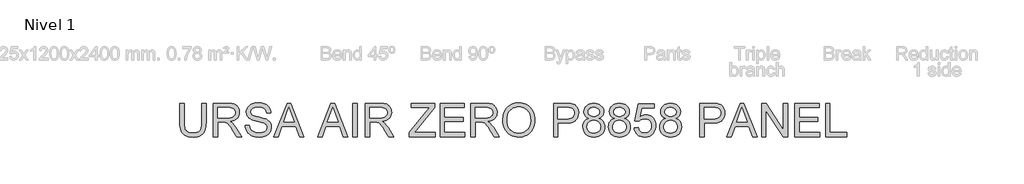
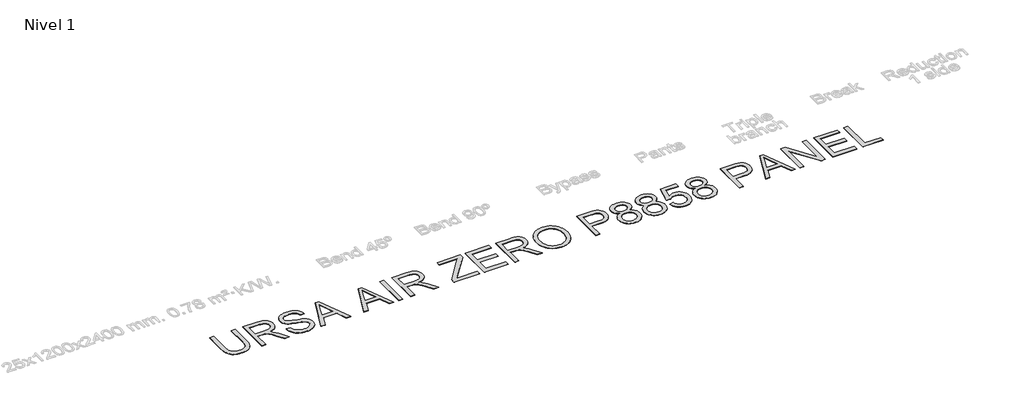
# One storey, part 4 of 7: 1 proxy.
"""IFC4 building model written with IfcOpenShell, lengths in millimetres."""

from ifc_helpers import new_model, si_unit, origin, origin_with_axes, place, context, project, spatial, polyline, outline, extrude, element, save

model = new_model("IFC4")

# Units and contexts
model_context = context("Model", 3, world=origin())
ifc_project = project(units=[si_unit("LENGTHUNIT", "METRE", prefix="MILLI")], contexts=[model_context])

# Site, building, storey
site = spatial("IfcSite", under=ifc_project)
building = spatial("IfcBuilding", under=site)
storey = spatial("IfcBuildingStorey", under=building, Name="Nivel 1", Elevation=0.0)

# Proxy
placement = place(None, origin())
element("IfcBuildingElementProxy", 1, Name="Texto de modelo 2", ObjectType="Texto de modelo 2", at=placement, inside=storey, context=model_context, shape_type="SweptSolid", body=[
    extrude(outline(polyline([(-16629.8914984, -5621.7490961), (-16504.3211107, -5621.7490961), (-16504.3211107, -6201.2858659), (-16506.4517606, -6273.0458476), (-16512.8437102, -6337.0036653), (-16523.4969597, -6393.159319), (-16538.4115089, -6441.5128087), (-16558.8749449, -6483.8958802), (-16586.1748546, -6522.1402793), (-16620.3112381, -6556.246006), (-16661.2840953, -6586.2130602), (-16709.1394115, -6610.6235634), (-16763.9231719, -6628.0596371), (-16825.6353766, -6638.5212813), (-16894.2760256, -6642.0084961), (-16961.2228845, -6638.9734696), (-17021.7777937, -6629.8683902), (-17075.9407533, -6614.6932579), (-17123.7117632, -6593.4480727), (-17165.0984877, -6566.4470671), (-17200.1085909, -6534.0044737), (-17228.7420728, -6496.1202924), (-17250.9989335, -6452.7945232), (-17267.6839149, -6402.5403099), (-17279.6017587, -6343.8707958), (-17286.752465, -6276.7859812), (-17289.1360337, -6201.2858659), (-17289.1360337, -5621.7490961), (-17163.565646, -5621.7490961), (-17163.565646, -6196.8712819), (-17162.017476, -6257.5794753), (-17157.3729658, -6309.7190839), (-17149.6321155, -6353.2901078), (-17138.794925, -6388.2925467), (-17124.1869441, -6417.2555897), (-17105.1337225, -6442.7084252), (-17081.63526, -6464.6510534), (-17053.6915568, -6483.0834742), (-17021.8391074, -6497.6761266), (-16986.6144063, -6508.0994498), (-16948.0174537, -6514.3534438), (-16906.0482494, -6516.4381084), (-16836.8404491, -6512.3147644), (-16778.3318834, -6499.9447323), (-16730.5225525, -6479.3280121), (-16710.6301, -6465.927144), (-16693.4124562, -6450.4646039), (-16678.5247317, -6432.0705042), (-16665.6220371, -6409.8749571), (-16645.7717378, -6354.0795212), (-16633.8615582, -6283.0782961), (-16629.8914984, -6196.8712819), (-16629.8914984, -5621.7490961)])), origin_with_axes(), (0.0, 0.0, 1.0), 10.0),
    extrude(outline(polyline([(-16284.5729322, -6626.3121976), (-16284.5729322, -5621.7490961), (-15851.6984512, -5621.7490961), (-15789.5647151, -5623.4428862), (-15735.3557702, -5628.5242562), (-15689.0716167, -5636.9932063), (-15650.7122545, -5648.8497364), (-15618.047399, -5665.0058874), (-15588.8467657, -5686.3737), (-15563.1103544, -5712.9531741), (-15540.8381653, -5744.7443099), (-15522.865597, -5780.0379888), (-15510.0280482, -5817.1250924), (-15502.3255189, -5856.0056208), (-15499.7580092, -5896.6795739), (-15504.0116447, -5948.2750237), (-15516.7725514, -5995.6398306), (-15538.0407293, -6038.7739945), (-15567.8161783, -6077.6775155), (-15606.4821088, -6111.1087918), (-15654.4217313, -6137.8262217), (-15711.6350458, -6157.8298052), (-15778.1220522, -6171.1195423), (-15736.7353277, -6198.1588689), (-15706.7529451, -6224.8303136), (-15655.3107795, -6285.8374111), (-15604.9722598, -6354.0795212), (-15437.4633247, -6626.3121976), (-15583.3898494, -6626.3121976), (-15714.110585, -6418.0909884), (-15766.411142, -6338.6284774), (-15808.5336305, -6280.2578675), (-15843.6357042, -6240.0667595), (-15874.8750169, -6215.1427544), (-15904.4588607, -6200.519445), (-15934.5945275, -6191.2304247), (-16007.4351625, -6186.8158407), (-16159.0025445, -6186.8158407), (-16159.0025445, -6626.3121976), (-16284.5729322, -6626.3121976)]), holes=[polyline([(-16159.0025445, -6061.245453), (-15877.9407002, -6061.245453), (-15797.2212591, -6056.8002123), (-15734.5893494, -6043.4644899), (-15709.4047612, -6033.2404362), (-15687.4391404, -6020.3492379), (-15668.692487, -6004.7908952), (-15653.1648012, -5986.565408), (-15640.9863743, -5966.5694887), (-15632.2874979, -5945.6998497), (-15627.0681721, -5923.956491), (-15625.3283969, -5901.3394125), (-15628.646999, -5869.22638), (-15638.6028055, -5840.0870603), (-15655.1958163, -5813.9214534), (-15678.4260315, -5790.7295593), (-15708.8299456, -5771.7376513), (-15746.9440531, -5758.1720027), (-15792.7683541, -5750.0326135), (-15846.3028486, -5747.3194838), (-16159.0025445, -5747.3194838), (-16159.0025445, -6061.245453)])]), origin_with_axes(), (0.0, 0.0, 1.0), 10.0),
    extrude(outline(polyline([(-15327.0987261, -6280.9936315), (-15201.5283384, -6280.9936315), (-15195.7801822, -6317.5442406), (-15187.1196269, -6350.6766127), (-15175.5466725, -6380.3907481), (-15161.0613189, -6406.6866465), (-15142.9278023, -6430.0931385), (-15120.4103585, -6451.1390543), (-15093.5089876, -6469.8243939), (-15062.2236896, -6486.1491575), (-15027.7040957, -6499.4005735), (-14991.0998372, -6508.8658707), (-14952.410914, -6514.545049), (-14911.6373262, -6516.4381084), (-14841.6784335, -6510.7052806), (-14809.9639398, -6503.5392459), (-14780.4260813, -6493.5067974), (-14753.7929577, -6480.9681527), (-14730.7926688, -6466.2835297), (-14711.4252145, -6449.4529284), (-14695.690595, -6430.4763489), (-14683.5121682, -6410.1738613), (-14674.8132918, -6389.3655359), (-14669.593966, -6368.0513728), (-14667.8541907, -6346.231372), (-14673.0658523, -6304.200854), (-14688.7008371, -6267.872507), (-14701.8526185, -6251.7546771), (-14720.4613161, -6236.8784489), (-14744.5269299, -6223.2438225), (-14774.04946, -6210.8507977), (-14840.3601896, -6191.1384542), (-14956.8868116, -6162.903511), (-15076.9083125, -6131.173689), (-15120.7092626, -6115.8835935), (-15153.703679, -6100.9767085), (-15187.2345901, -6080.973125), (-15216.2129614, -6058.7315927), (-15240.638793, -6034.2521116), (-15260.512085, -6007.5346817), (-15275.9094793, -5978.8552145), (-15286.9076181, -5948.4896215), (-15293.5065014, -5916.4379027), (-15295.7061292, -5882.700058), (-15292.9853353, -5845.3063861), (-15284.8229535, -5809.1543158), (-15271.2189839, -5774.2438473), (-15252.1734264, -5740.5749806), (-15227.9008789, -5709.5196088), (-15198.6159393, -5682.4496253), (-15164.3186074, -5659.3650301), (-15125.0088834, -5640.2658232), (-15082.0126752, -5625.2976245), (-15036.6558909, -5614.6060541), (-14988.9385305, -5608.1911118), (-14938.8605939, -5606.0527977), (-14884.2301176, -5608.2907465), (-14832.9105792, -5615.0045929), (-14784.9019789, -5626.1943369), (-14740.2043165, -5641.8599785), (-14699.6453265, -5661.863562), (-14664.0527435, -5686.0671316), (-14633.4265674, -5714.4706873), (-14607.7667982, -5747.0742292), (-14587.2727054, -5782.9273953), (-14572.1435583, -5821.0798239), (-14562.379357, -5861.5315149), (-14557.9801015, -5904.2824684), (-14683.5504892, -5904.2824684), (-14691.9504614, -5864.2139878), (-14706.6044276, -5829.3571687), (-14727.5123876, -5799.7120113), (-14754.6743416, -5775.2785155), (-14788.5961272, -5756.1793085), (-14829.7835823, -5742.5370179), (-14878.2367067, -5734.3516435), (-14933.9555006, -5731.6231854), (-14991.4523908, -5734.3209867), (-15040.5799655, -5742.4143906), (-15081.3382249, -5755.903397), (-15113.7271689, -5774.7880061), (-15138.4059194, -5797.4893909), (-15156.0335983, -5822.4287245), (-15166.6102057, -5849.6060069), (-15170.1357415, -5879.0212381), (-15167.6372096, -5904.3284537), (-15160.141614, -5927.2750931), (-15147.6489545, -5947.8611564), (-15130.1592313, -5966.0866436), (-15102.6293954, -5983.3464406), (-15059.2806336, -6000.7901785), (-15000.1129461, -6018.4178574), (-14925.1263327, -6036.2294774), (-14786.6800752, -6069.8906799), (-14737.9663677, -6085.1117975), (-14702.9256076, -6099.2599259), (-14664.4282897, -6120.7043805), (-14631.3419027, -6144.8159796), (-14603.6664468, -6171.5947232), (-14581.4019219, -6201.0406112), (-14564.2877449, -6233.0003595), (-14552.0633328, -6267.320684), (-14544.7286855, -6304.0015846), (-14542.2838031, -6343.0430613), (-14545.0965675, -6382.3221285), (-14553.5348607, -6420.4515645), (-14567.5986829, -6457.4313692), (-14587.2880338, -6493.2615427), (-14612.2580242, -6526.5548633), (-14642.1637647, -6555.9241092), (-14677.0052554, -6581.3692806), (-14716.7824961, -6602.8903773), (-14760.3381915, -6620.0045543), (-14806.5150461, -6632.2289664), (-14855.3130599, -6639.5636137), (-14906.7322329, -6642.0084961), (-14970.9659621, -6639.3720085), (-15029.7581035, -6631.4625456), (-15083.108657, -6618.2801074), (-15131.0176227, -6599.824694), (-15173.7762404, -6576.0656485), (-15211.6757501, -6546.972314), (-15244.7161518, -6512.5446906), (-15272.8974455, -6472.7827783), (-15295.5988303, -6428.974164), (-15312.1995053, -6382.4064348), (-15322.6994706, -6333.0795906), (-15327.0987261, -6280.9936315)])), origin_with_axes(), (0.0, 0.0, 1.0), 10.0),
    extrude(outline(polyline([(-14470.914696, -6626.3121976), (-14069.9233213, -5621.7490961), (-13962.992288, -5621.7490961), (-13562.0009132, -6626.3121976), (-13694.6836862, -6626.3121976), (-13809.7081233, -6312.3862284), (-14223.4527406, -6312.3862284), (-14338.2319231, -6626.3121976), (-14470.914696, -6626.3121976)]), holes=[polyline([(-14177.3448638, -6186.8158407), (-13855.5707454, -6186.8158407), (-13946.0697162, -5939.8443946), (-14016.4578046, -5747.3194838), (-14078.9977438, -5918.2619842), (-14177.3448638, -6186.8158407)])]), origin_with_axes(), (0.0, 0.0, 1.0), 10.0),
    extrude(outline(polyline([(-13152.4256253, -6626.3121976), (-12751.4342505, -5621.7490961), (-12644.5032173, -5621.7490961), (-12243.5118425, -6626.3121976), (-12376.1946155, -6626.3121976), (-12491.2190526, -6312.3862284), (-12904.9636699, -6312.3862284), (-13019.7428524, -6626.3121976), (-13152.4256253, -6626.3121976)]), holes=[polyline([(-12858.8557931, -6186.8158407), (-12537.0816747, -6186.8158407), (-12627.5806455, -5939.8443946), (-12697.9687339, -5747.3194838), (-12760.5086731, -5918.2619842), (-12858.8557931, -6186.8158407)])]), origin_with_axes(), (0.0, 0.0, 1.0), 10.0),
    extrude(outline(polyline([(-12093.6612432, -6626.3121976), (-12093.6612432, -5621.7490961), (-11968.0908555, -5621.7490961), (-11968.0908555, -6626.3121976), (-12093.6612432, -6626.3121976)])), origin_with_axes(), (0.0, 0.0, 1.0), 10.0),
    extrude(outline(polyline([(-11716.9500801, -6626.3121976), (-11716.9500801, -5621.7490961), (-11284.0755991, -5621.7490961), (-11221.941863, -5623.4428862), (-11167.7329181, -5628.5242562), (-11121.4487646, -5636.9932063), (-11083.0894024, -5648.8497364), (-11050.4245469, -5665.0058874), (-11021.2239136, -5686.3737), (-10995.4875023, -5712.9531741), (-10973.2153132, -5744.7443099), (-10955.2427449, -5780.0379888), (-10942.4051961, -5817.1250924), (-10934.7026668, -5856.0056208), (-10932.1351571, -5896.6795739), (-10936.3887926, -5948.2750237), (-10949.1496993, -5995.6398306), (-10970.4178772, -6038.7739945), (-11000.1933262, -6077.6775155), (-11038.8592567, -6111.1087918), (-11086.7988792, -6137.8262217), (-11144.0121937, -6157.8298052), (-11210.4992001, -6171.1195423), (-11169.1124756, -6198.1588689), (-11139.130093, -6224.8303136), (-11087.6879273, -6285.8374111), (-11037.3494077, -6354.0795212), (-10869.8404725, -6626.3121976), (-11015.7669973, -6626.3121976), (-11146.4877329, -6418.0909884), (-11198.7882899, -6338.6284774), (-11240.9107783, -6280.2578675), (-11276.012852, -6240.0667595), (-11307.2521648, -6215.1427544), (-11336.8360086, -6200.519445), (-11366.9716754, -6191.2304247), (-11439.8123104, -6186.8158407), (-11591.3796924, -6186.8158407), (-11591.3796924, -6626.3121976), (-11716.9500801, -6626.3121976)]), holes=[polyline([(-11591.3796924, -6061.245453), (-11310.3178481, -6061.245453), (-11229.598407, -6056.8002123), (-11166.9664973, -6043.4644899), (-11141.7819091, -6033.2404362), (-11119.8162883, -6020.3492379), (-11101.0696349, -6004.7908952), (-11085.541949, -5986.565408), (-11073.3635222, -5966.5694887), (-11064.6646458, -5945.6998497), (-11059.44532, -5923.956491), (-11057.7055447, -5901.3394125), (-11061.0241469, -5869.22638), (-11070.9799534, -5840.0870603), (-11087.5729642, -5813.9214534), (-11110.8031794, -5790.7295593), (-11141.2070934, -5771.7376513), (-11179.321201, -5758.1720027), (-11225.145502, -5750.0326135), (-11278.6799965, -5747.3194838), (-11591.3796924, -5747.3194838), (-11591.3796924, -6061.245453)])]), origin_with_axes(), (0.0, 0.0, 1.0), 10.0),
    extrude(outline(polyline([(-10398.4610094, -6626.3121976), (-10398.4610094, -6496.0819713), (-9884.6524895, -5867.0037596), (-9787.0411334, -5747.3194838), (-10335.6758155, -5747.3194838), (-10335.6758155, -5621.7490961), (-9629.3423848, -5621.7490961), (-9629.3423848, -5747.3194838), (-10191.7113281, -6435.7493241), (-10244.6863354, -6500.7418099), (-9613.6460863, -6500.7418099), (-9613.6460863, -6626.3121976), (-10398.4610094, -6626.3121976)])), origin_with_axes(), (0.0, 0.0, 1.0), 10.0),
    extrude(outline(polyline([(-9472.3794002, -6626.3121976), (-9472.3794002, -5621.7490961), (-8750.349671, -5621.7490961), (-8750.349671, -5747.3194838), (-9346.8090125, -5747.3194838), (-9346.8090125, -6045.5491546), (-8781.7422679, -6045.5491546), (-8781.7422679, -6171.1195423), (-9346.8090125, -6171.1195423), (-9346.8090125, -6500.7418099), (-8734.6533725, -6500.7418099), (-8734.6533725, -6626.3121976), (-9472.3794002, -6626.3121976)])), origin_with_axes(), (0.0, 0.0, 1.0), 10.0),
    extrude(outline(polyline([(-8546.297791, -6626.3121976), (-8546.297791, -5621.7490961), (-8113.42331, -5621.7490961), (-8051.2895739, -5623.4428862), (-7997.080629, -5628.5242562), (-7950.7964755, -5636.9932063), (-7912.4371133, -5648.8497364), (-7879.7722578, -5665.0058874), (-7850.5716245, -5686.3737), (-7824.8352132, -5712.9531741), (-7802.5630241, -5744.7443099), (-7784.5904558, -5780.0379888), (-7771.752907, -5817.1250924), (-7764.0503777, -5856.0056208), (-7761.482868, -5896.6795739), (-7765.7365035, -5948.2750237), (-7778.4974102, -5995.6398306), (-7799.7655881, -6038.7739945), (-7829.5410371, -6077.6775155), (-7868.2069676, -6111.1087918), (-7916.1465901, -6137.8262217), (-7973.3599046, -6157.8298052), (-8039.846911, -6171.1195423), (-7998.4601865, -6198.1588689), (-7968.4778039, -6224.8303136), (-7917.0356383, -6285.8374111), (-7866.6971186, -6354.0795212), (-7699.1881834, -6626.3121976), (-7845.1147082, -6626.3121976), (-7975.8354438, -6418.0909884), (-8028.1360008, -6338.6284774), (-8070.2584892, -6280.2578675), (-8105.360563, -6240.0667595), (-8136.5998757, -6215.1427544), (-8166.1837195, -6200.519445), (-8196.3193863, -6191.2304247), (-8269.1600213, -6186.8158407), (-8420.7274033, -6186.8158407), (-8420.7274033, -6626.3121976), (-8546.297791, -6626.3121976)]), holes=[polyline([(-8420.7274033, -6061.245453), (-8139.665559, -6061.245453), (-8058.9461179, -6056.8002123), (-7996.3142082, -6043.4644899), (-7971.12962, -6033.2404362), (-7949.1639992, -6020.3492379), (-7930.4173458, -6004.7908952), (-7914.8896599, -5986.565408), (-7902.7112331, -5966.5694887), (-7894.0123567, -5945.6998497), (-7888.7930309, -5923.956491), (-7887.0532556, -5901.3394125), (-7890.3718578, -5869.22638), (-7900.3276643, -5840.0870603), (-7916.9206751, -5813.9214534), (-7940.1508903, -5790.7295593), (-7970.5548043, -5771.7376513), (-8008.6689119, -5758.1720027), (-8054.4932129, -5750.0326135), (-8108.0277074, -5747.3194838), (-8420.7274033, -5747.3194838), (-8420.7274033, -6061.245453)])]), origin_with_axes(), (0.0, 0.0, 1.0), 10.0),
    extrude(outline(polyline([(-7588.8235849, -6137.2743987), (-7586.731256, -6076.6696721), (-7580.4542695, -6019.4448613), (-7569.9926253, -5965.5999664), (-7555.3463233, -5915.1349873), (-7536.5153637, -5868.049924), (-7513.4997464, -5824.3447766), (-7486.2994714, -5784.0195449), (-7454.9145386, -5747.0742292), (-7420.2225001, -5714.0223312), (-7383.1009075, -5685.3773529), (-7343.5497609, -5661.1392943), (-7301.5690603, -5641.3081555), (-7257.1588057, -5625.8839365), (-7210.3189971, -5614.8666371), (-7161.0496345, -5608.2562575), (-7109.3507178, -5606.0527977), (-7041.7677296, -5610.1914701), (-6977.5876499, -5622.6074875), (-6916.8104786, -5643.3008497), (-6859.4362158, -5672.2715568), (-6807.0743451, -5708.6458891), (-6761.3343504, -5751.5501268), (-6722.2162316, -5800.9842699), (-6689.7199887, -5856.9483184), (-6664.1828468, -5918.1700137), (-6645.9420313, -5983.3770974), (-6634.9975419, -6052.5695693), (-6631.3493788, -6125.7474295), (-6635.1891471, -6199.89098), (-6646.7084521, -6270.0184853), (-6665.9072937, -6336.1299455), (-6692.785672, -6398.2253606), (-6726.7074576, -6454.66459), (-6767.0365213, -6503.8074932), (-6813.7728631, -6545.6540702), (-6866.916483, -6580.2043209), (-6924.3750521, -6607.2436475), (-6984.0562417, -6626.5574523), (-7045.9600515, -6638.1457351), (-7110.0864818, -6642.0084961), (-7178.8497581, -6637.7395321), (-7243.8729007, -6624.9326401), (-7305.1559098, -6603.5878202), (-7362.6987852, -6573.7050723), (-7414.9993422, -6536.4416919), (-7460.5553959, -6492.9549744), (-7499.3669464, -6443.2449198), (-7531.4339936, -6387.3115281), (-7556.5419398, -6327.4004123), (-7574.4761871, -6265.7571855), (-7585.2367354, -6202.3818476), (-7588.8235849, -6137.2743987)]), holes=[polyline([(-7463.2531972, -6138.500672), (-7461.6839506, -6181.2937787), (-7456.9762107, -6221.7493019), (-7449.1299775, -6259.8672415), (-7438.145251, -6295.6475976), (-7424.0220313, -6329.0903703), (-7406.7603183, -6360.1955594), (-7386.3601121, -6388.963165), (-7362.8214125, -6415.3931871), (-7336.9144726, -6439.0755905), (-7309.4095453, -6459.6003401), (-7280.3066306, -6476.967436), (-7249.6057285, -6491.1768781), (-7217.306839, -6502.2286663), (-7183.409962, -6510.1228008), (-7147.9150976, -6514.8592815), (-7110.8222458, -6516.4381084), (-7073.0511116, -6514.8439531), (-7036.9929279, -6510.0614872), (-7002.6476948, -6502.0907106), (-6970.0154122, -6490.9316234), (-6939.0960801, -6476.5842256), (-6909.8896986, -6459.0485172), (-6882.3962676, -6438.3244981), (-6856.6157872, -6414.4121684), (-6833.2495323, -6387.5682791), (-6812.9987781, -6358.0495811), (-6795.8635245, -6325.8560744), (-6781.8437716, -6290.987759), (-6770.9395194, -6253.444635), (-6763.1507678, -6213.2267023), (-6758.4775168, -6170.3339609), (-6756.9197665, -6124.7664109), (-6759.5869109, -6067.3001775), (-6767.5883443, -6013.6047347), (-6780.9240666, -5963.6800822), (-6799.5940779, -5917.5262203), (-6823.3914445, -5875.7486212), (-6852.1092327, -5838.9527575), (-6885.7474426, -5807.1386291), (-6924.3060743, -5780.3062361), (-6966.5895111, -5759.0074014), (-7011.4021366, -5743.793948), (-7058.7439509, -5734.665876), (-7108.6149539, -5731.6231854), (-7178.6811455, -5737.4863047), (-7243.6889597, -5755.0756626), (-7274.2959753, -5768.267681), (-7303.6383965, -5784.391259), (-7358.5294559, -5825.4330941), (-7383.0740828, -5850.8456926), (-7404.3460927, -5880.1785335), (-7422.3454858, -5913.431617), (-7437.0722619, -5950.604943), (-7448.5264211, -5991.6985115), (-7456.7079634, -6036.7123225), (-7461.6168887, -6085.646376), (-7463.2531972, -6138.500672)])]), origin_with_axes(), (0.0, 0.0, 1.0), 10.0),
    extrude(outline(polyline([(-6066.2826342, -6626.3121976), (-6066.2826342, -5621.7490961), (-5693.9860551, -5621.7490961), (-5607.2885315, -5624.1403291), (-5543.890201, -5631.314028), (-5508.9490757, -5638.8479447), (-5476.9663347, -5649.1869616), (-5447.9419782, -5662.3310787), (-5421.876006, -5678.2802961), (-5398.4925066, -5697.3641746), (-5377.5155687, -5719.9122752), (-5358.9451922, -5745.9245979), (-5342.781377, -5775.4011428), (-5329.6909093, -5807.3685553), (-5320.3405753, -5840.8534811), (-5314.7303749, -5875.8559201), (-5312.8603081, -5912.3758723), (-5317.9110213, -5974.0420918), (-5333.063161, -6030.7725611), (-5358.3167271, -6082.5672803), (-5393.6717197, -6129.4262495), (-5415.9075038, -6150.2345748), (-5442.2091504, -6168.2684568), (-5472.5766595, -6183.5278954), (-5507.010031, -6196.0128906), (-5545.509265, -6205.7234424), (-5588.0743615, -6212.6595509), (-5685.4021418, -6218.2084376), (-5940.7122465, -6218.2084376), (-5940.7122465, -6626.3121976), (-6066.2826342, -6626.3121976)]), holes=[polyline([(-5940.7122465, -6092.63805), (-5678.0445019, -6092.63805), (-5617.6505411, -6089.7563077), (-5566.6988847, -6081.1110808), (-5525.1895329, -6066.7023693), (-5493.1224857, -6046.5301732), (-5469.1948276, -6021.1309871), (-5452.1036432, -5991.0413056), (-5441.8489326, -5956.2611287), (-5438.4306957, -5916.7904563), (-5440.4463825, -5887.482524), (-5446.4934428, -5860.3818837), (-5456.5718766, -5835.4885353), (-5470.681684, -5812.802479), (-5488.0717725, -5793.0594786), (-5507.9910497, -5776.9952981), (-5530.4395156, -5764.6099376), (-5555.4171702, -5755.903397), (-5603.8549662, -5749.4654621), (-5680.9875579, -5747.3194838), (-5940.7122465, -5747.3194838), (-5940.7122465, -6092.63805)])]), origin_with_axes(), (0.0, 0.0, 1.0), 10.0),
    extrude(outline(polyline([(-5004.3299414, -6073.0176769), (-5040.4513548, -6057.9345151), (-5071.5603761, -6039.9082973), (-5097.6570051, -6018.9390236), (-5118.7412419, -5995.0266939), (-5134.9970276, -5968.4012345), (-5146.6083031, -5939.2925716), (-5153.5750684, -5907.7007053), (-5155.8973235, -5873.6256355), (-5150.838946, -5822.4133961), (-5135.6638137, -5775.4624565), (-5110.3719265, -5732.7728166), (-5074.9632845, -5694.3444765), (-5031.1393418, -5662.5839976), (-4980.6015528, -5639.8979412), (-4923.3499173, -5626.2863074), (-4859.3844353, -5621.7490961), (-4795.1123851, -5626.3936063), (-4737.4315539, -5640.3271369), (-4686.3419419, -5663.5496878), (-4641.8435489, -5696.0612592), (-4605.7911133, -5735.2406916), (-4580.0393737, -5778.4668261), (-4564.5883299, -5825.7396625), (-4559.4379819, -5877.0592008), (-4561.7295802, -5909.9309899), (-4568.604375, -5940.6108155), (-4580.0623663, -5969.0986775), (-4596.1035541, -5995.3945759), (-4616.8045806, -6019.1459572), (-4642.2420877, -6040.0002678), (-4672.4160755, -6057.9575077), (-4707.326544, -6073.0176769), (-4666.0547827, -6090.5763779), (-4630.0406682, -6112.8409029), (-4599.2842005, -6139.8112516), (-4573.7853798, -6171.4874243), (-4553.7741321, -6207.1643136), (-4539.4803837, -6246.1368124), (-4530.9041347, -6288.4049209), (-4528.045385, -6333.9686388), (-4533.7168991, -6396.6005485), (-4550.7314414, -6454.0207966), (-4579.0890118, -6506.229383), (-4618.7896105, -6553.2263079), (-4642.3723792, -6574.0346333), (-4667.7485727, -6592.0685152), (-4694.9181909, -6607.3279538), (-4723.8812338, -6619.812949), (-4787.1875938, -6636.4596093), (-4857.6676527, -6642.0084961), (-4928.1477116, -6636.4366167), (-4991.4540716, -6619.7209785), (-5020.4171145, -6607.1842499), (-5047.5867327, -6591.8615816), (-5072.9629262, -6573.7529736), (-5096.5456949, -6552.8584259), (-5136.2462935, -6505.5319401), (-5164.603864, -6452.7025527), (-5181.6184063, -6394.3702639), (-5187.2899204, -6330.5350735), (-5184.3162076, -6282.8943551), (-5175.3950692, -6239.3003387), (-5160.5265052, -6199.7530242), (-5139.7105157, -6164.2524117), (-5113.406953, -6133.4422946), (-5082.0756698, -6107.9664664), (-5045.7166659, -6087.8249272), (-5004.3299414, -6073.0176769)]), holes=[polyline([(-5030.3269358, -5877.3044554), (-5027.5448282, -5906.0912216), (-5019.1985054, -5932.1188727), (-5005.2879675, -5955.3874089), (-4985.8132143, -5975.8968302), (-4961.0195007, -5992.6354609), (-4931.1520812, -6004.5916258), (-4896.2109559, -6011.7653247), (-4856.1961247, -6014.1565577), (-4817.1699764, -6011.7806531), (-4782.9876077, -6004.6529394), (-4753.6490186, -5992.7734167), (-4729.154209, -5976.1420848), (-4709.8404043, -5956.0618593), (-4696.0448295, -5933.8356554), (-4687.7674846, -5909.4634732), (-4685.0083696, -5882.9453127), (-4687.8594551, -5855.3924841), (-4696.4127115, -5830.1235896), (-4710.6681388, -5807.1386291), (-4730.625737, -5786.4376026), (-4755.6723695, -5769.3234257), (-4785.1948996, -5757.0990135), (-4819.1933274, -5749.7643662), (-4857.6676527, -5747.3194838), (-4896.4408821, -5749.7107168), (-4930.6002582, -5756.8844157), (-4960.145781, -5768.8405805), (-4985.0774504, -5785.5792113), (-5004.8741002, -5805.6594369), (-5019.0145644, -5827.6403861), (-5027.4988429, -5851.522059), (-5030.3269358, -5877.3044554)]), polyline([(-5061.7195327, -6326.1204896), (-5056.4772143, -6374.1597468), (-5040.750259, -6420.6661623), (-5028.2499353, -6442.2409085), (-5011.7182382, -6461.2251523), (-4991.1551675, -6477.6188937), (-4966.5607233, -6491.4221327), (-4912.48207, -6510.1841145), (-4856.686634, -6516.4381084), (-4811.2838645, -6513.1501631), (-4771.2153838, -6503.2863271), (-4736.4811921, -6486.8466004), (-4707.0812893, -6463.8309831), (-4683.6901258, -6435.7416599), (-4666.9821519, -6404.0808157), (-4656.9573675, -6368.8484505), (-4653.6157727, -6330.0445642), (-4657.0646664, -6290.619877), (-4667.4113475, -6254.7513825), (-4684.655816, -6222.4390806), (-4708.798072, -6193.6829713), (-4738.9950524, -6170.0772099), (-4774.4036945, -6153.2159518), (-4815.0239981, -6143.099197), (-4860.8559633, -6139.7269453), (-4905.5919468, -6143.0532117), (-4945.131597, -6153.0320108), (-4979.4749141, -6169.6633427), (-5008.6218981, -6192.9472073), (-5031.8521132, -6221.2281357), (-5048.445124, -6252.8506589), (-5058.4009305, -6287.8147768), (-5061.7195327, -6326.1204896)])]), origin_with_axes(), (0.0, 0.0, 1.0), 10.0),
    extrude(outline(polyline([(-4235.2113169, -6073.0176769), (-4271.3327303, -6057.9345151), (-4302.4417515, -6039.9082973), (-4328.5383805, -6018.9390236), (-4349.6226174, -5995.0266939), (-4365.878403, -5968.4012345), (-4377.4896785, -5939.2925716), (-4384.4564438, -5907.7007053), (-4386.7786989, -5873.6256355), (-4381.7203214, -5822.4133961), (-4366.5451891, -5775.4624565), (-4341.253302, -5732.7728166), (-4305.8446599, -5694.3444765), (-4262.0207173, -5662.5839976), (-4211.4829282, -5639.8979412), (-4154.2312927, -5626.2863074), (-4090.2658108, -5621.7490961), (-4025.9937605, -5626.3936063), (-3968.3129294, -5640.3271369), (-3917.2233173, -5663.5496878), (-3872.7249243, -5696.0612592), (-3836.6724887, -5735.2406916), (-3810.9207491, -5778.4668261), (-3795.4697053, -5825.7396625), (-3790.3193574, -5877.0592008), (-3792.6109556, -5909.9309899), (-3799.4857504, -5940.6108155), (-3810.9437417, -5969.0986775), (-3826.9849295, -5995.3945759), (-3847.685956, -6019.1459572), (-3873.1234631, -6040.0002678), (-3903.2974509, -6057.9575077), (-3938.2079194, -6073.0176769), (-3896.9361581, -6090.5763779), (-3860.9220436, -6112.8409029), (-3830.165576, -6139.8112516), (-3804.6667552, -6171.4874243), (-3784.6555075, -6207.1643136), (-3770.3617591, -6246.1368124), (-3761.7855101, -6288.4049209), (-3758.9267604, -6333.9686388), (-3764.5982745, -6396.6005485), (-3781.6128168, -6454.0207966), (-3809.9703873, -6506.229383), (-3849.6709859, -6553.2263079), (-3873.2537546, -6574.0346333), (-3898.6299481, -6592.0685152), (-3925.7995663, -6607.3279538), (-3954.7626092, -6619.812949), (-4018.0689692, -6636.4596093), (-4088.5490281, -6642.0084961), (-4159.029087, -6636.4366167), (-4222.335447, -6619.7209785), (-4251.2984899, -6607.1842499), (-4278.4681081, -6591.8615816), (-4303.8443016, -6573.7529736), (-4327.4270703, -6552.8584259), (-4367.127669, -6505.5319401), (-4395.4852394, -6452.7025527), (-4412.4997817, -6394.3702639), (-4418.1712958, -6330.5350735), (-4415.197583, -6282.8943551), (-4406.2764446, -6239.3003387), (-4391.4078806, -6199.7530242), (-4370.5918911, -6164.2524117), (-4344.2883284, -6133.4422946), (-4312.9570452, -6107.9664664), (-4276.5980413, -6087.8249272), (-4235.2113169, -6073.0176769)]), holes=[polyline([(-4292.6009081, -6326.1204896), (-4287.3585897, -6374.1597468), (-4271.6316344, -6420.6661623), (-4259.1313108, -6442.2409085), (-4242.5996136, -6461.2251523), (-4222.0365429, -6477.6188937), (-4197.4420987, -6491.4221327), (-4143.3634454, -6510.1841145), (-4087.5680095, -6516.4381084), (-4042.1652399, -6513.1501631), (-4002.0967592, -6503.2863271), (-3967.3625675, -6486.8466004), (-3937.9626648, -6463.8309831), (-3914.5715012, -6435.7416599), (-3897.8635273, -6404.0808157), (-3887.8387429, -6368.8484505), (-3884.4971481, -6330.0445642), (-3887.9460418, -6290.619877), (-3898.2927229, -6254.7513825), (-3915.5371915, -6222.4390806), (-3939.6794474, -6193.6829713), (-3969.8764278, -6170.0772099), (-4005.2850699, -6153.2159518), (-4045.9053735, -6143.099197), (-4091.7373387, -6139.7269453), (-4136.4733222, -6143.0532117), (-4176.0129725, -6153.0320108), (-4210.3562896, -6169.6633427), (-4239.5032735, -6192.9472073), (-4262.7334886, -6221.2281357), (-4279.3264994, -6252.8506589), (-4289.2823059, -6287.8147768), (-4292.6009081, -6326.1204896)]), polyline([(-4261.2083112, -5877.3044554), (-4258.4262036, -5906.0912216), (-4250.0798808, -5932.1188727), (-4236.1693429, -5955.3874089), (-4216.6945898, -5975.8968302), (-4191.9008761, -5992.6354609), (-4162.0334567, -6004.5916258), (-4127.0923313, -6011.7653247), (-4087.0775001, -6014.1565577), (-4048.0513518, -6011.7806531), (-4013.8689831, -6004.6529394), (-3984.530394, -5992.7734167), (-3960.0355845, -5976.1420848), (-3940.7217797, -5956.0618593), (-3926.9262049, -5933.8356554), (-3918.64886, -5909.4634732), (-3915.889745, -5882.9453127), (-3918.7408305, -5855.3924841), (-3927.2940869, -5830.1235896), (-3941.5495142, -5807.1386291), (-3961.5071124, -5786.4376026), (-3986.553745, -5769.3234257), (-4016.0762751, -5757.0990135), (-4050.0747028, -5749.7643662), (-4088.5490281, -5747.3194838), (-4127.3222576, -5749.7107168), (-4161.4816337, -5756.8844157), (-4191.0271564, -5768.8405805), (-4215.9588258, -5785.5792113), (-4235.7554756, -5805.6594369), (-4249.8959398, -5827.6403861), (-4258.3802183, -5851.522059), (-4261.2083112, -5877.3044554)])]), origin_with_axes(), (0.0, 0.0, 1.0), 10.0),
    extrude(outline(polyline([(-3649.0526712, -6359.4751238), (-3523.4822835, -6343.7788253), (-3514.1012926, -6384.1462101), (-3500.4283452, -6419.1639775), (-3482.4634411, -6448.8321276), (-3460.2065804, -6473.1506603), (-3433.7037483, -6492.0889188), (-3403.0009301, -6505.6162464), (-3368.0981258, -6513.7326429), (-3328.9953354, -6516.4381084), (-3281.170676, -6512.6749822), (-3238.9868739, -6501.3856034), (-3202.4439291, -6482.5699722), (-3171.5418415, -6456.2280885), (-3146.9703899, -6423.6628677), (-3129.419353, -6386.1772253), (-3118.8887309, -6343.7711611), (-3115.3785235, -6296.4446753), (-3118.6664689, -6251.716356), (-3128.5303049, -6211.9544437), (-3144.9700315, -6177.1589384), (-3167.9856488, -6147.3298399), (-3197.6537989, -6123.4021818), (-3234.0511238, -6106.3109974), (-3277.1776235, -6096.0562868), (-3327.0332981, -6092.63805), (-3387.9484251, -6098.0949662), (-3414.0603826, -6104.9161115), (-3437.2752693, -6114.465715), (-3476.6692996, -6139.5430043), (-3507.7859851, -6171.1195423), (-3633.3563727, -6155.4232438), (-3523.4822835, -5637.4453946), (-3036.8970312, -5637.4453946), (-3036.8970312, -5763.0157823), (-3421.9468529, -5763.0157823), (-3475.6576241, -6039.6630427), (-3431.3431721, -6007.9025637), (-3385.955731, -5985.2165074), (-3339.4953007, -5971.6048735), (-3291.9618812, -5967.0676623), (-3230.8091637, -5972.6931911), (-3174.6381816, -5989.5697776), (-3123.4489348, -6017.6974219), (-3077.2414234, -6057.0761238), (-3038.9893601, -6105.299322), (-3011.6664577, -6159.9604551), (-2995.2727163, -6221.0595231), (-2989.8081359, -6288.5965261), (-2994.7285575, -6353.6503255), (-3009.4898226, -6414.1669137), (-3034.091931, -6470.1462907), (-3068.5348828, -6521.5884563), (-3093.5355301, -6549.8119032), (-3120.7128125, -6574.2722237), (-3150.06673, -6594.9694181), (-3181.5972827, -6611.9034862), (-3215.3044705, -6625.074428), (-3251.1882934, -6634.4822436), (-3289.2487515, -6640.126933), (-3329.4858447, -6642.0084961), (-3394.2867253, -6637.1723807), (-3452.8182836, -6622.6640345), (-3505.0805196, -6598.4834575), (-3551.0734332, -6564.6306498), (-3589.3408249, -6522.791737), (-3618.4264951, -6474.6528451), (-3638.3304439, -6420.213974), (-3649.0526712, -6359.4751238)])), origin_with_axes(), (0.0, 0.0, 1.0), 10.0),
    extrude(outline(polyline([(-2696.9740677, -6073.0176769), (-2733.0954811, -6057.9345151), (-2764.2045023, -6039.9082973), (-2790.3011313, -6018.9390236), (-2811.3853682, -5995.0266939), (-2827.6411539, -5968.4012345), (-2839.2524293, -5939.2925716), (-2846.2191946, -5907.7007053), (-2848.5414497, -5873.6256355), (-2843.4830723, -5822.4133961), (-2828.30794, -5775.4624565), (-2803.0160528, -5732.7728166), (-2767.6074108, -5694.3444765), (-2723.7834681, -5662.5839976), (-2673.245679, -5639.8979412), (-2615.9940435, -5626.2863074), (-2552.0285616, -5621.7490961), (-2487.7565114, -5626.3936063), (-2430.0756802, -5640.3271369), (-2378.9860681, -5663.5496878), (-2334.4876751, -5696.0612592), (-2298.4352396, -5735.2406916), (-2272.6834999, -5778.4668261), (-2257.2324561, -5825.7396625), (-2252.0821082, -5877.0592008), (-2254.3737065, -5909.9309899), (-2261.2485012, -5940.6108155), (-2272.7064925, -5969.0986775), (-2288.7476804, -5995.3945759), (-2309.4487068, -6019.1459572), (-2334.8862139, -6040.0002678), (-2365.0602018, -6057.9575077), (-2399.9706703, -6073.0176769), (-2358.6989089, -6090.5763779), (-2322.6847944, -6112.8409029), (-2291.9283268, -6139.8112516), (-2266.429506, -6171.4874243), (-2246.4182583, -6207.1643136), (-2232.12451, -6246.1368124), (-2223.5482609, -6288.4049209), (-2220.6895113, -6333.9686388), (-2226.3610254, -6396.6005485), (-2243.3755676, -6454.0207966), (-2271.7331381, -6506.229383), (-2311.4337367, -6553.2263079), (-2335.0165055, -6574.0346333), (-2360.3926989, -6592.0685152), (-2387.5623171, -6607.3279538), (-2416.52536, -6619.812949), (-2479.83172, -6636.4596093), (-2550.3117789, -6642.0084961), (-2620.7918379, -6636.4366167), (-2684.0981979, -6619.7209785), (-2713.0612408, -6607.1842499), (-2740.230859, -6591.8615816), (-2765.6070524, -6573.7529736), (-2789.1898211, -6552.8584259), (-2828.8904198, -6505.5319401), (-2857.2479903, -6452.7025527), (-2874.2625325, -6394.3702639), (-2879.9340466, -6330.5350735), (-2876.9603338, -6282.8943551), (-2868.0391954, -6239.3003387), (-2853.1706315, -6199.7530242), (-2832.3546419, -6164.2524117), (-2806.0510793, -6133.4422946), (-2774.719796, -6107.9664664), (-2738.3607921, -6087.8249272), (-2696.9740677, -6073.0176769)]), holes=[polyline([(-2722.971062, -5877.3044554), (-2720.1889544, -5906.0912216), (-2711.8426317, -5932.1188727), (-2697.9320937, -5955.3874089), (-2678.4573406, -5975.8968302), (-2653.663627, -5992.6354609), (-2623.7962075, -6004.5916258), (-2588.8550822, -6011.7653247), (-2548.840251, -6014.1565577), (-2509.8141026, -6011.7806531), (-2475.6317339, -6004.6529394), (-2446.2931448, -5992.7734167), (-2421.7983353, -5976.1420848), (-2402.4845306, -5956.0618593), (-2388.6889557, -5933.8356554), (-2380.4116108, -5909.4634732), (-2377.6524959, -5882.9453127), (-2380.5035813, -5855.3924841), (-2389.0568377, -5830.1235896), (-2403.312265, -5807.1386291), (-2423.2698633, -5786.4376026), (-2448.3164958, -5769.3234257), (-2477.8390259, -5757.0990135), (-2511.8374536, -5749.7643662), (-2550.3117789, -5747.3194838), (-2589.0850084, -5749.7107168), (-2623.2443845, -5756.8844157), (-2652.7899072, -5768.8405805), (-2677.7215766, -5785.5792113), (-2697.5182265, -5805.6594369), (-2711.6586907, -5827.6403861), (-2720.1429692, -5851.522059), (-2722.971062, -5877.3044554)]), polyline([(-2754.3636589, -6326.1204896), (-2749.1213405, -6374.1597468), (-2733.3943852, -6420.6661623), (-2720.8940616, -6442.2409085), (-2704.3623644, -6461.2251523), (-2683.7992937, -6477.6188937), (-2659.2048495, -6491.4221327), (-2605.1261962, -6510.1841145), (-2549.3307603, -6516.4381084), (-2503.9279907, -6513.1501631), (-2463.8595101, -6503.2863271), (-2429.1253184, -6486.8466004), (-2399.7254156, -6463.8309831), (-2376.3342521, -6435.7416599), (-2359.6262781, -6404.0808157), (-2349.6014937, -6368.8484505), (-2346.259899, -6330.0445642), (-2349.7087927, -6290.619877), (-2360.0554738, -6254.7513825), (-2377.2999423, -6222.4390806), (-2401.4421982, -6193.6829713), (-2431.6391787, -6170.0772099), (-2467.0478207, -6153.2159518), (-2507.6681243, -6143.099197), (-2553.5000896, -6139.7269453), (-2598.236073, -6143.0532117), (-2637.7757233, -6153.0320108), (-2672.1190404, -6169.6633427), (-2701.2660243, -6192.9472073), (-2724.4962395, -6221.2281357), (-2741.0892503, -6252.8506589), (-2751.0450568, -6287.8147768), (-2754.3636589, -6326.1204896)])]), origin_with_axes(), (0.0, 0.0, 1.0), 10.0),
    extrude(outline(polyline([(-1671.3190651, -6626.3121976), (-1671.3190651, -5621.7490961), (-1299.022486, -5621.7490961), (-1212.3249625, -5624.1403291), (-1148.926632, -5631.314028), (-1113.9855067, -5638.8479447), (-1082.0027657, -5649.1869616), (-1052.9784091, -5662.3310787), (-1026.9124369, -5678.2802961), (-1003.5289376, -5697.3641746), (-982.5519997, -5719.9122752), (-963.9816231, -5745.9245979), (-947.817808, -5775.4011428), (-934.7273403, -5807.3685553), (-925.3770063, -5840.8534811), (-919.7668058, -5875.8559201), (-917.896739, -5912.3758723), (-922.9474522, -5974.0420918), (-938.0995919, -6030.7725611), (-963.353158, -6082.5672803), (-998.7081506, -6129.4262495), (-1020.9439348, -6150.2345748), (-1047.2455814, -6168.2684568), (-1077.6130904, -6183.5278954), (-1112.046462, -6196.0128906), (-1150.545696, -6205.7234424), (-1193.1107924, -6212.6595509), (-1290.4385728, -6218.2084376), (-1545.7486775, -6218.2084376), (-1545.7486775, -6626.3121976), (-1671.3190651, -6626.3121976)]), holes=[polyline([(-1545.7486775, -6092.63805), (-1283.0809329, -6092.63805), (-1222.686972, -6089.7563077), (-1171.7353157, -6081.1110808), (-1130.2259639, -6066.7023693), (-1098.1589167, -6046.5301732), (-1074.2312586, -6021.1309871), (-1057.1400742, -5991.0413056), (-1046.8853636, -5956.2611287), (-1043.4671267, -5916.7904563), (-1045.4828135, -5887.482524), (-1051.5298738, -5860.3818837), (-1061.6083076, -5835.4885353), (-1075.7181149, -5812.802479), (-1093.1082034, -5793.0594786), (-1113.0274806, -5776.9952981), (-1135.4759465, -5764.6099376), (-1160.4536012, -5755.903397), (-1208.8913972, -5749.4654621), (-1286.0239889, -5747.3194838), (-1545.7486775, -5747.3194838), (-1545.7486775, -6092.63805)])]), origin_with_axes(), (0.0, 0.0, 1.0), 10.0),
    extrude(outline(polyline([(-862.2239304, -6626.3121976), (-461.2325557, -5621.7490961), (-354.3015224, -5621.7490961), (46.6898523, -6626.3121976), (-85.9929206, -6626.3121976), (-201.0173577, -6312.3862284), (-614.761975, -6312.3862284), (-729.5411575, -6626.3121976), (-862.2239304, -6626.3121976)]), holes=[polyline([(-568.6540983, -6186.8158407), (-246.8799798, -6186.8158407), (-337.3789506, -5939.8443946), (-407.767039, -5747.3194838), (-470.3069782, -5918.2619842), (-568.6540983, -6186.8158407)])]), origin_with_axes(), (0.0, 0.0, 1.0), 10.0),
    extrude(outline(polyline([(180.8441532, -6626.3121976), (180.8441532, -5621.7490961), (315.2437088, -5621.7490961), (840.0886886, -6417.600479), (840.0886886, -5621.7490961), (965.6590763, -5621.7490961), (965.6590763, -6626.3121976), (831.2595207, -6626.3121976), (306.4145409, -5830.2155601), (306.4145409, -6626.3121976), (180.8441532, -6626.3121976)])), origin_with_axes(), (0.0, 0.0, 1.0), 10.0),
    extrude(outline(polyline([(1185.4072547, -6626.3121976), (1185.4072547, -5621.7490961), (1907.4369839, -5621.7490961), (1907.4369839, -5747.3194838), (1310.9776424, -5747.3194838), (1310.9776424, -6045.5491546), (1876.044387, -6045.5491546), (1876.044387, -6171.1195423), (1310.9776424, -6171.1195423), (1310.9776424, -6500.7418099), (1923.1332824, -6500.7418099), (1923.1332824, -6626.3121976), (1185.4072547, -6626.3121976)])), origin_with_axes(), (0.0, 0.0, 1.0), 10.0),
    extrude(outline(polyline([(2111.4888639, -6626.3121976), (2111.4888639, -5621.7490961), (2237.0592516, -5621.7490961), (2237.0592516, -6500.7418099), (2739.3408024, -6500.7418099), (2739.3408024, -6626.3121976), (2111.4888639, -6626.3121976)])), origin_with_axes(), (0.0, 0.0, 1.0), 10.0),
])

save(model, "model.ifc")
